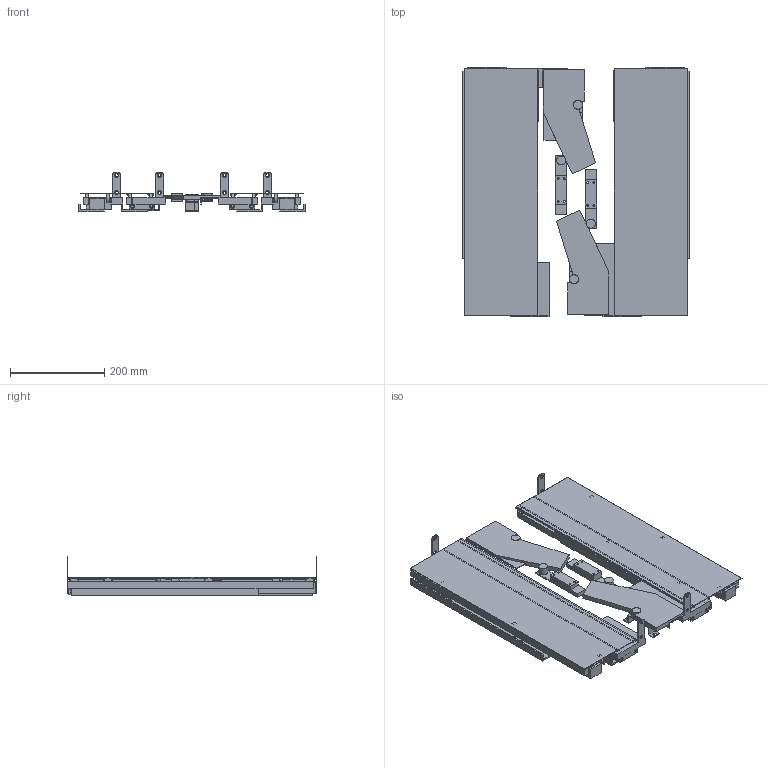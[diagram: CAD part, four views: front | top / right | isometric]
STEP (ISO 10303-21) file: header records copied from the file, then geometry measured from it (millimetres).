
FILE_DESCRIPTION(('STEP AP242'),'1');
FILE_NAME('OPO_53.499.10_volu_schn_3d.stp','2025-11-08T20:32:31',(' '),(' '),'Spatial InterOp 3D',' ',' ');
FILE_SCHEMA(('AP242_MANAGED_MODEL_BASED_3D_ENGINEERING_MIM_LF {1 0 10303 442 1 1 4}'));
Length unit declared in the file: millimetre
Products named in the file (1): 1
Bounding box: 480 x 530 x 82.95 mm (x, y, z)
Volume: 3388208.9 mm3; surface area: 1055505.2 mm2
Topology: 7 solids, 7 shells, 565 faces, 2885 edges, 3612 vertices
Faces by surface type: plane 375, cylinder 158, cone 32
Entity records: 38678 total; most frequent: DIRECTION 4553, CARTESIAN_POINT 4474, ORIENTED_EDGE 3126, LINE 2363, VECTOR 2363, STYLED_ITEM 1887, PRESENTATION_STYLE_ASSIGNMENT 1887, COLOUR_RGB 1887
